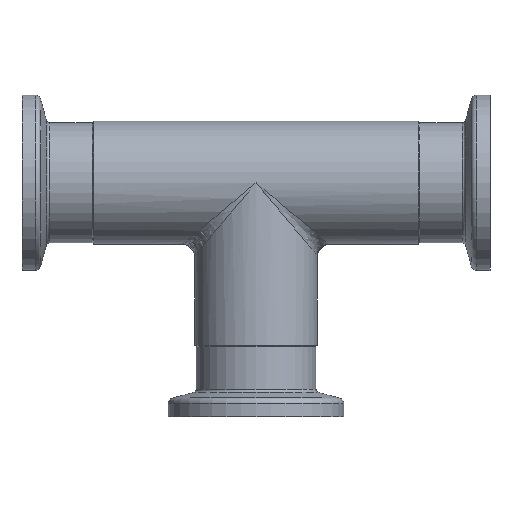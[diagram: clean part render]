
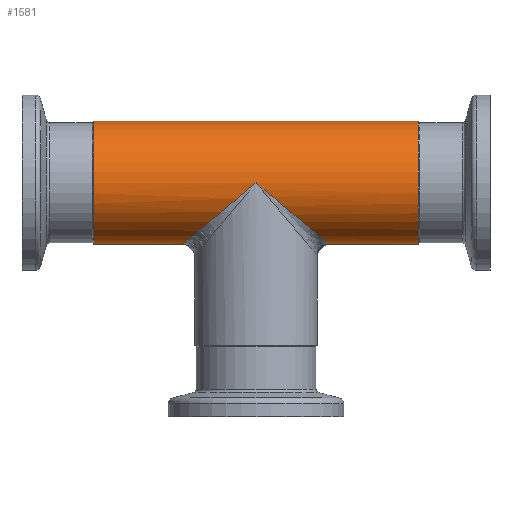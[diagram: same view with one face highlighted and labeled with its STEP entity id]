
A CAD part, top view. The second image highlights one B-rep face of the part: STEP entity #1581.
In plain terms, the highlighted cylindrical face has radius 10.5 mm (diameter 21 mm), a full revolution.
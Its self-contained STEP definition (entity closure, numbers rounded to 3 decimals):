
#757=CARTESIAN_POINT('',(-27.75,-10.5,0.));
#758=VERTEX_POINT('',#757);
#759=CARTESIAN_POINT('',(-27.75,0.,0.0));
#760=DIRECTION('',(1.0,0.0,0.0));
#761=DIRECTION('',(0.0,1.0,0.0));
#762=AXIS2_PLACEMENT_3D('',#759,#760,#761);
#763=CIRCLE('',#762,10.5);
#764=EDGE_CURVE('',#758,#758,#763,.T.);
#1006=CARTESIAN_POINT('',(27.75,-10.5,0.));
#1007=VERTEX_POINT('',#1006);
#1008=CARTESIAN_POINT('',(27.75,0.,0.0));
#1009=DIRECTION('',(-1.0,0.0,0.0));
#1010=DIRECTION('',(0.0,1.0,0.0));
#1011=AXIS2_PLACEMENT_3D('',#1008,#1009,#1010);
#1012=CIRCLE('',#1011,10.5);
#1013=EDGE_CURVE('',#1007,#1007,#1012,.T.);
#1294=CARTESIAN_POINT('',(0.,0.,-10.5));
#1295=VERTEX_POINT('',#1294);
#1296=CARTESIAN_POINT('',(0.0,0.,10.5));
#1297=VERTEX_POINT('',#1296);
#1305=CARTESIAN_POINT('',(0.,0.0,0.0));
#1306=DIRECTION('',(0.643,-0.766,0.));
#1307=DIRECTION('',(-0.766,-0.643,0.0));
#1308=AXIS2_PLACEMENT_3D('',#1305,#1306,#1307);
#1309=ELLIPSE('',#1308,16.325,10.5);
#1310=EDGE_CURVE('',#1297,#1295,#1309,.T.);
#1543=CARTESIAN_POINT('',(0.,0.0,0.0));
#1544=DIRECTION('',(-0.643,-0.766,0.));
#1545=DIRECTION('',(0.766,-0.643,0.0));
#1546=AXIS2_PLACEMENT_3D('',#1543,#1544,#1545);
#1547=ELLIPSE('',#1546,16.325,10.5);
#1548=EDGE_CURVE('',#1295,#1297,#1547,.T.);
#1566=CARTESIAN_POINT('',(17.263,0.,0.0));
#1567=DIRECTION('',(1.0,0.,0.0));
#1568=DIRECTION('',(0.0,1.0,0.0));
#1569=AXIS2_PLACEMENT_3D('',#1566,#1567,#1568);
#1570=CYLINDRICAL_SURFACE('',#1569,10.5);
#1571=ORIENTED_EDGE('',*,*,#764,.T.);
#1572=EDGE_LOOP('',(#1571));
#1573=FACE_OUTER_BOUND('',#1572,.T.);
#1574=ORIENTED_EDGE('',*,*,#1013,.T.);
#1575=EDGE_LOOP('',(#1574));
#1576=FACE_BOUND('',#1575,.T.);
#1577=ORIENTED_EDGE('',*,*,#1310,.F.);
#1578=ORIENTED_EDGE('',*,*,#1548,.F.);
#1579=EDGE_LOOP('',(#1577,#1578));
#1580=FACE_BOUND('',#1579,.T.);
#1581=ADVANCED_FACE('',(#1573,#1576,#1580),#1570,.T.);
